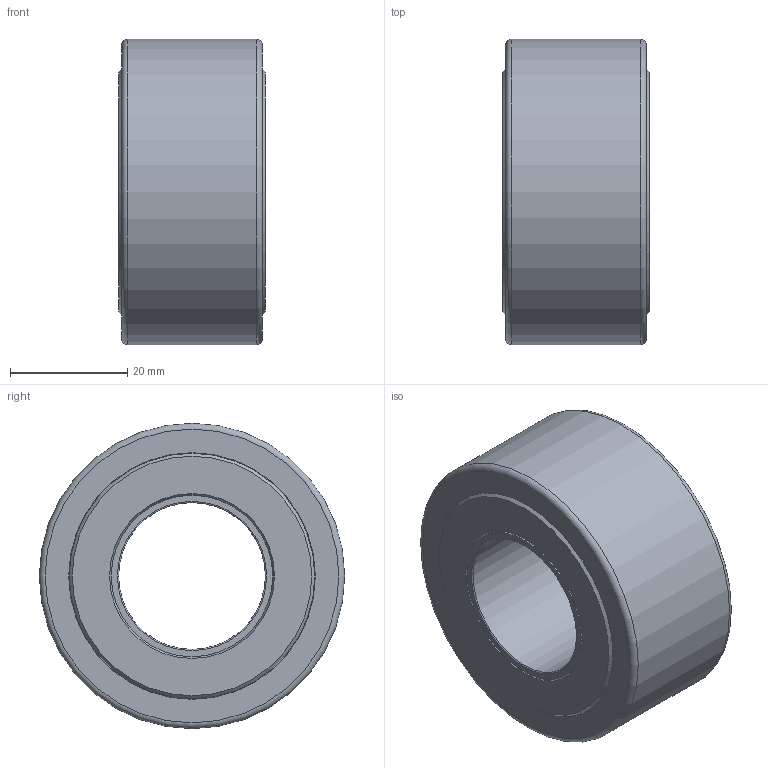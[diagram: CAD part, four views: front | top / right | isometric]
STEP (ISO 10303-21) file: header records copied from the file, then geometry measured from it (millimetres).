
FILE_DESCRIPTION(/* description */ (''),/* implementation_level */ '2;1');
FILE_NAME(/* name */ 'C:\Users\OUREHANEKD\Desktop\Ložiská 3D\MODELY\Ihlove loziska\NATR\NATR--\NATR25.stp',/* time_stamp */ '2016-10-18T14:45:30+02:00',/* author */ ('OUREHANEKD'),/* organization */ (''),/* preprocessor_version */ 'ST-DEVELOPER v15.6',/* originating_system */ 'Autodesk Inventor 2015',/* authorisation */ '');
FILE_SCHEMA (('AUTOMOTIVE_DESIGN { 1 0 10303 214 3 1 1 }'));
Length unit declared in the file: millimetre
Products named in the file (6): NATR25-01; NATR25-02; NATR25-kl; NATR25-needle; NATR25-kr; NATR25
Assembly tree (26 placements, depth 2):
  NATR25
    NATR25-01
    NATR25-02
    NATR25-kl
    NATR25-needle  x22
    NATR25-kr
Bounding box: 25 x 52 x 52 mm (x, y, z)
Volume: 38538.3 mm3; surface area: 24559.1 mm2
Topology: 27 solids, 27 shells, 102 faces, 124 edges, 80 vertices
Faces by surface type: plane 58, cylinder 36, torus 4, cone 4
Full cylindrical faces by diameter (mm): 3.25 x22, 25 x1, 27.5 x4, 29 x1, 30.63 x1, 33.87 x1, 35.5 x1, 41.8 x2, 42 x2, 52 x1
Entity records: 1089 total; most frequent: DIRECTION 218, CARTESIAN_POINT 147, AXIS2_PLACEMENT_3D 109, EDGE_LOOP 76, ORIENTED_EDGE 76, FACE_OUTER_BOUND 39, ADVANCED_FACE 39, CIRCLE 38
